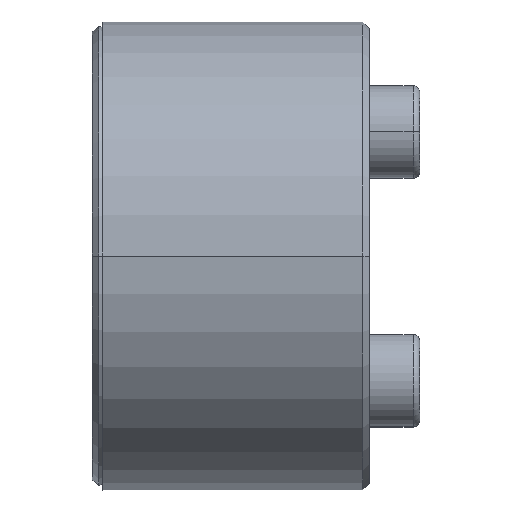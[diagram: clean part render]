
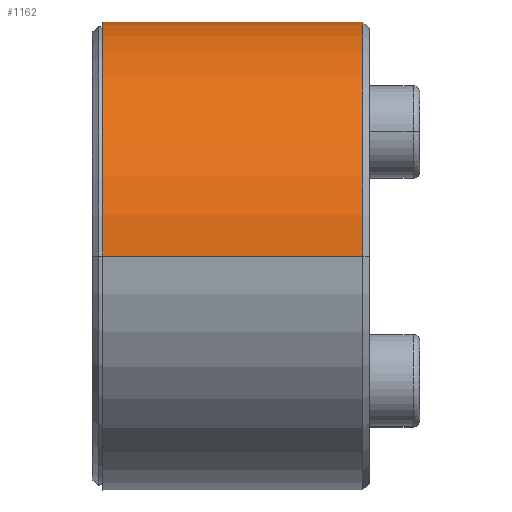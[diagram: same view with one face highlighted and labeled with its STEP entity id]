
A CAD part, top view. The second image highlights one B-rep face of the part: STEP entity #1162.
In plain terms, the highlighted cylindrical face has radius 11 mm (diameter 22 mm), a partial arc.
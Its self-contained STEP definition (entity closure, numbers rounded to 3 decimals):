
#104 = DIRECTION ( 'NONE',  ( 1., 0., 0. ) ) ;
#107 = CIRCLE ( 'NONE', #1860, 11. ) ;
#125 = DIRECTION ( 'NONE',  ( -1., 0., 0. ) ) ;
#409 = FACE_OUTER_BOUND ( 'NONE', #3428, .T. ) ;
#486 = LINE ( 'NONE', #866, #3615 ) ;
#635 = ORIENTED_EDGE ( 'NONE', *, *, #2039, .F. ) ;
#700 = DIRECTION ( 'NONE',  ( 0., -0.996, 0.091 ) ) ;
#762 = CARTESIAN_POINT ( 'NONE',  ( 0.491, 0., 0. ) ) ;
#840 = ORIENTED_EDGE ( 'NONE', *, *, #4089, .T. ) ;
#866 = CARTESIAN_POINT ( 'NONE',  ( 0.491, 0., 11. ) ) ;
#1030 = DIRECTION ( 'NONE',  ( 0., -0.996, 0.091 ) ) ;
#1155 = EDGE_CURVE ( 'NONE', #2572, #3769, #107, .T. ) ;
#1162 = ADVANCED_FACE ( 'NONE', ( #409 ), #1701, .T. ) ;
#1645 = CARTESIAN_POINT ( 'NONE',  ( 0.491, 0., 0. ) ) ;
#1701 = CYLINDRICAL_SURFACE ( 'NONE', #4023, 11. ) ;
#1717 = VERTEX_POINT ( 'NONE', #2896 ) ;
#1860 = AXIS2_PLACEMENT_3D ( 'NONE', #3015, #125, #700 ) ;
#2039 = EDGE_CURVE ( 'NONE', #3688, #3769, #3420, .T. ) ;
#2198 = CARTESIAN_POINT ( 'NONE',  ( 12.691, 0., 11. ) ) ;
#2323 = AXIS2_PLACEMENT_3D ( 'NONE', #1645, #2917, #1030 ) ;
#2448 = DIRECTION ( 'NONE',  ( 1., 0., 0. ) ) ;
#2453 = ORIENTED_EDGE ( 'NONE', *, *, #1155, .T. ) ;
#2478 = CARTESIAN_POINT ( 'NONE',  ( 12.691, 0., -11. ) ) ;
#2572 = VERTEX_POINT ( 'NONE', #2198 ) ;
#2573 = VECTOR ( 'NONE', #4053, 1000. ) ;
#2743 = ORIENTED_EDGE ( 'NONE', *, *, #3090, .F. ) ;
#2870 = CIRCLE ( 'NONE', #2323, 11. ) ;
#2896 = CARTESIAN_POINT ( 'NONE',  ( 0.491, 0., 11. ) ) ;
#2917 = DIRECTION ( 'NONE',  ( -1., 0., 0. ) ) ;
#3015 = CARTESIAN_POINT ( 'NONE',  ( 12.691, 0., 0. ) ) ;
#3064 = CARTESIAN_POINT ( 'NONE',  ( 0.491, 0., -11. ) ) ;
#3090 = EDGE_CURVE ( 'NONE', #1717, #3688, #2870, .T. ) ;
#3149 = CARTESIAN_POINT ( 'NONE',  ( 0.491, 0., -11. ) ) ;
#3348 = DIRECTION ( 'NONE',  ( 0., 0., 1. ) ) ;
#3420 = LINE ( 'NONE', #3064, #2573 ) ;
#3428 = EDGE_LOOP ( 'NONE', ( #635, #2743, #840, #2453 ) ) ;
#3615 = VECTOR ( 'NONE', #2448, 1000. ) ;
#3688 = VERTEX_POINT ( 'NONE', #3149 ) ;
#3769 = VERTEX_POINT ( 'NONE', #2478 ) ;
#4023 = AXIS2_PLACEMENT_3D ( 'NONE', #762, #104, #3348 ) ;
#4053 = DIRECTION ( 'NONE',  ( 1., 0., 0. ) ) ;
#4089 = EDGE_CURVE ( 'NONE', #1717, #2572, #486, .T. ) ;
